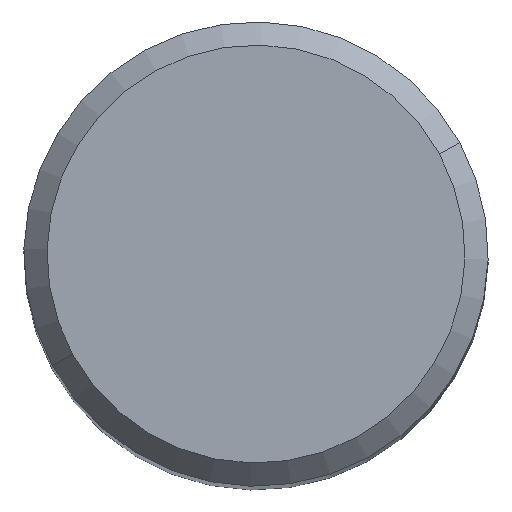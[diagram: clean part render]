
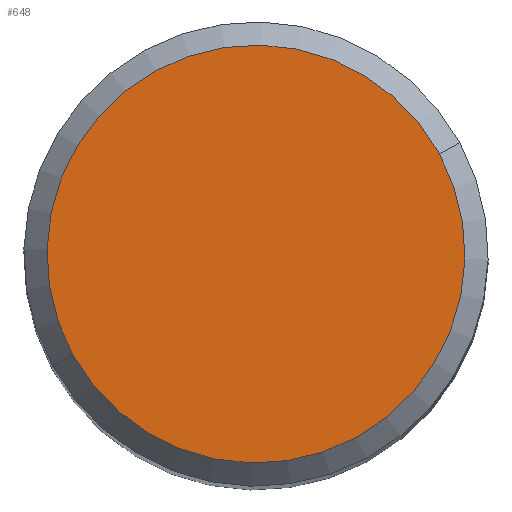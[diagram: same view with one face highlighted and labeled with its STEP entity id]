
A CAD part, top view. The second image highlights one B-rep face of the part: STEP entity #648.
In plain terms, the highlighted planar face has unit normal (0, 0, 1).
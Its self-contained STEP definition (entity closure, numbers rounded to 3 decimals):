
#596=AXIS2_PLACEMENT_3D('Circle Axis2P3D',#594,#595,$) ;
#628=AXIS2_PLACEMENT_3D('Circle Axis2P3D',#626,#627,$) ;
#642=AXIS2_PLACEMENT_3D('Plane Axis2P3D',#639,#640,#641) ;
#594=CARTESIAN_POINT('Axis2P3D Location',(0.,0.,0.)) ;
#598=CARTESIAN_POINT('Vertex',(3.949,2.157,0.)) ;
#600=CARTESIAN_POINT('Vertex',(-3.949,-2.157,0.)) ;
#626=CARTESIAN_POINT('Axis2P3D Location',(0.,0.,0.)) ;
#639=CARTESIAN_POINT('Axis2P3D Location',(-4.5,0.,0.)) ;
#595=DIRECTION('Axis2P3D Direction',(0.,0.,-1.)) ;
#627=DIRECTION('Axis2P3D Direction',(0.,0.,-1.)) ;
#640=DIRECTION('Axis2P3D Direction',(0.,0.,1.)) ;
#641=DIRECTION('Axis2P3D XDirection',(0.,-1.,0.)) ;
#645=ORIENTED_EDGE('',*,*,#602,.T.) ;
#646=ORIENTED_EDGE('',*,*,#630,.T.) ;
#648=ADVANCED_FACE('NOCUT',(#647),#643,.T.) ;
#597=CIRCLE('generated circle',#596,4.5) ;
#629=CIRCLE('generated circle',#628,4.5) ;
#602=EDGE_CURVE('',#599,#601,#597,.F.) ;
#630=EDGE_CURVE('',#601,#599,#629,.F.) ;
#644=EDGE_LOOP('',(#645,#646)) ;
#647=FACE_OUTER_BOUND('',#644,.T.) ;
#643=PLANE('',#642) ;
#599=VERTEX_POINT('',#598) ;
#601=VERTEX_POINT('',#600) ;
